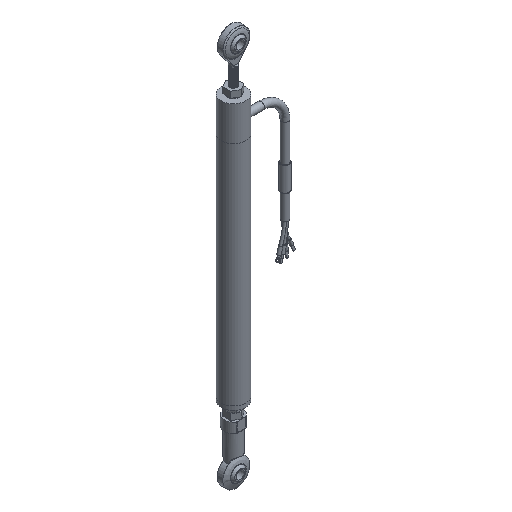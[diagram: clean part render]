
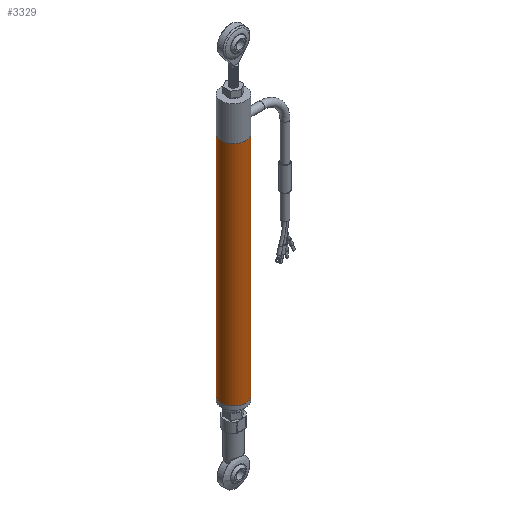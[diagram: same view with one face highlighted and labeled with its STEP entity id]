
A CAD part, isometric view. The second image highlights one B-rep face of the part: STEP entity #3329.
In plain terms, the highlighted cylindrical face has radius 6.35 mm (diameter 12.7 mm), a full revolution.
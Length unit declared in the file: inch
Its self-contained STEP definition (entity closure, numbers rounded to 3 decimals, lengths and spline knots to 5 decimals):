
#248=LINE('',#8165,#453);
#453=VECTOR('',#4234,0.25);
#633=CYLINDRICAL_SURFACE('',#3719,0.25);
#744=FACE_OUTER_BOUND('',#956,.T.);
#956=EDGE_LOOP('',(#2470,#2471,#2472,#2473,#2474));
#1140=CIRCLE('',#3711,0.25);
#1142=CIRCLE('',#3717,0.25);
#1143=CIRCLE('',#3718,0.25);
#1463=VERTEX_POINT('',#8108);
#1468=VERTEX_POINT('',#8159);
#1469=VERTEX_POINT('',#8161);
#1826=EDGE_CURVE('',#1463,#1463,#1140,.T.);
#1833=EDGE_CURVE('',#1469,#1468,#1142,.T.);
#1834=EDGE_CURVE('',#1468,#1469,#1143,.T.);
#1835=EDGE_CURVE('',#1463,#1469,#248,.T.);
#2470=ORIENTED_EDGE('',*,*,#1826,.F.);
#2471=ORIENTED_EDGE('',*,*,#1835,.T.);
#2472=ORIENTED_EDGE('',*,*,#1833,.T.);
#2473=ORIENTED_EDGE('',*,*,#1834,.T.);
#2474=ORIENTED_EDGE('',*,*,#1835,.F.);
#3329=ADVANCED_FACE('',(#744),#633,.T.);
#3711=AXIS2_PLACEMENT_3D('',#8110,#4214,#4215);
#3717=AXIS2_PLACEMENT_3D('',#8162,#4228,#4229);
#3718=AXIS2_PLACEMENT_3D('',#8163,#4230,#4231);
#3719=AXIS2_PLACEMENT_3D('',#8164,#4232,#4233);
#4214=DIRECTION('center_axis',(0.,0.,-1.));
#4215=DIRECTION('ref_axis',(-1.,0.,0.));
#4228=DIRECTION('center_axis',(0.,0.,-1.));
#4229=DIRECTION('ref_axis',(-1.,0.,0.));
#4230=DIRECTION('center_axis',(0.,0.,-1.));
#4231=DIRECTION('ref_axis',(-1.,0.,0.));
#4232=DIRECTION('center_axis',(0.,0.,-1.));
#4233=DIRECTION('ref_axis',(-1.,0.,0.));
#4234=DIRECTION('',(0.,0.,1.));
#8108=CARTESIAN_POINT('',(0.25,0.,-5.30709));
#8110=CARTESIAN_POINT('Origin',(0.,0.,-5.30709));
#8159=CARTESIAN_POINT('',(-0.25,0.,-0.7));
#8161=CARTESIAN_POINT('',(0.25,0.,-0.7));
#8162=CARTESIAN_POINT('Origin',(0.,0.,-0.7));
#8163=CARTESIAN_POINT('Origin',(0.,0.,-0.7));
#8164=CARTESIAN_POINT('Origin',(0.,0.,0.));
#8165=CARTESIAN_POINT('',(0.25,0.,0.));
